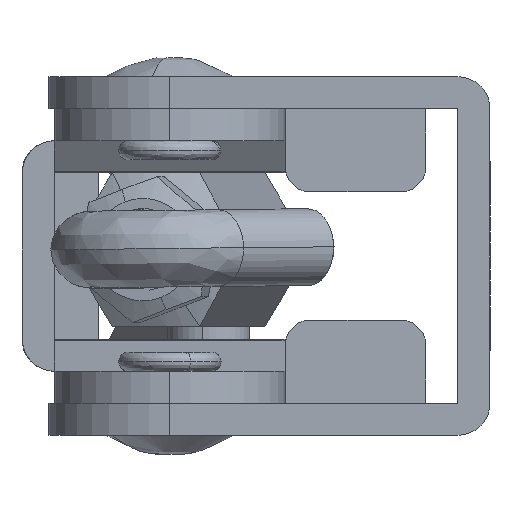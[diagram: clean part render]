
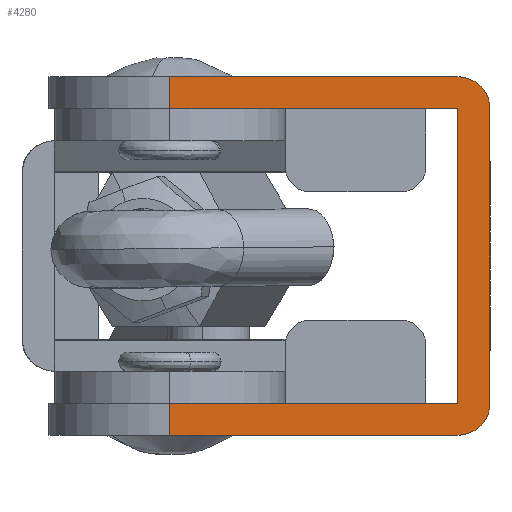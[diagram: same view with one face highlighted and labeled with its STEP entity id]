
A CAD part, left-side view. The second image highlights one B-rep face of the part: STEP entity #4280.
In plain terms, the highlighted planar face has unit normal (-1, 0, 0).
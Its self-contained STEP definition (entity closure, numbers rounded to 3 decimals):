
#103 = AXIS2_PLACEMENT_3D ( 'NONE', #5122, #7528, #8827 ) ;
#238 = EDGE_CURVE ( 'NONE', #12962, #13263, #10459, .T. ) ;
#268 = VECTOR ( 'NONE', #14915, 1000. ) ;
#469 = VERTEX_POINT ( 'NONE', #1870 ) ;
#591 = CARTESIAN_POINT ( 'NONE',  ( -35., 0., 25.5 ) ) ;
#776 = CIRCLE ( 'NONE', #13064, 2.5 ) ;
#1102 = VECTOR ( 'NONE', #5193, 1000. ) ;
#1420 = DIRECTION ( 'NONE',  ( 0., -1., 0. ) ) ;
#1870 = CARTESIAN_POINT ( 'NONE',  ( -35., 25., 0. ) ) ;
#2093 = EDGE_CURVE ( 'NONE', #4852, #4491, #2851, .T. ) ;
#2188 = CARTESIAN_POINT ( 'NONE',  ( -35., 2.5, 2.5 ) ) ;
#2398 = AXIS2_PLACEMENT_3D ( 'NONE', #4671, #7119, #15247 ) ;
#2444 = VERTEX_POINT ( 'NONE', #7448 ) ;
#2480 = CARTESIAN_POINT ( 'NONE',  ( -35., 25., 28. ) ) ;
#2736 = CARTESIAN_POINT ( 'NONE',  ( -35., 0., 28. ) ) ;
#2851 = LINE ( 'NONE', #5502, #268 ) ;
#2881 = ORIENTED_EDGE ( 'NONE', *, *, #9463, .F. ) ;
#3145 = EDGE_CURVE ( 'NONE', #469, #13657, #10391, .T. ) ;
#3675 = PLANE ( 'NONE',  #2398 ) ;
#3747 = DIRECTION ( 'NONE',  ( 0., -1., 0. ) ) ;
#3971 = EDGE_LOOP ( 'NONE', ( #11953, #10668, #6918, #5768, #10368, #9426, #14933, #12174, #13305, #2881 ) ) ;
#4063 = LINE ( 'NONE', #2188, #15101 ) ;
#4280 = ADVANCED_FACE ( 'NONE', ( #11096 ), #3675, .F. ) ;
#4491 = VERTEX_POINT ( 'NONE', #5116 ) ;
#4671 = CARTESIAN_POINT ( 'NONE',  ( -35., 0., 28. ) ) ;
#4852 = VERTEX_POINT ( 'NONE', #8244 ) ;
#5031 = VECTOR ( 'NONE', #3747, 1000. ) ;
#5116 = CARTESIAN_POINT ( 'NONE',  ( -35., 2.5, 25.5 ) ) ;
#5122 = CARTESIAN_POINT ( 'NONE',  ( -35., 2.5, 25.5 ) ) ;
#5173 = VECTOR ( 'NONE', #1420, 1000. ) ;
#5193 = DIRECTION ( 'NONE',  ( 0., 0., -1. ) ) ;
#5314 = LINE ( 'NONE', #13610, #9168 ) ;
#5502 = CARTESIAN_POINT ( 'NONE',  ( -35., 42.278, 25.5 ) ) ;
#5768 = ORIENTED_EDGE ( 'NONE', *, *, #11914, .F. ) ;
#5896 = CARTESIAN_POINT ( 'NONE',  ( -35., 18.36, 0. ) ) ;
#6904 = CARTESIAN_POINT ( 'NONE',  ( -35., 2.5, 28. ) ) ;
#6918 = ORIENTED_EDGE ( 'NONE', *, *, #8654, .F. ) ;
#6986 = DIRECTION ( 'NONE',  ( 1., 0., 0. ) ) ;
#7119 = DIRECTION ( 'NONE',  ( 1., 0., 0. ) ) ;
#7448 = CARTESIAN_POINT ( 'NONE',  ( -35., 2.5, 0. ) ) ;
#7528 = DIRECTION ( 'NONE',  ( 1., 0., 0. ) ) ;
#7586 = LINE ( 'NONE', #2736, #5031 ) ;
#7862 = CARTESIAN_POINT ( 'NONE',  ( -35., 2.5, 2.5 ) ) ;
#8023 = DIRECTION ( 'NONE',  ( 0., -1., 0. ) ) ;
#8102 = EDGE_CURVE ( 'NONE', #4852, #9358, #5314, .T. ) ;
#8238 = LINE ( 'NONE', #5896, #13929 ) ;
#8244 = CARTESIAN_POINT ( 'NONE',  ( -35., 25., 25.5 ) ) ;
#8504 = DIRECTION ( 'NONE',  ( 0., 0., 1. ) ) ;
#8554 = CARTESIAN_POINT ( 'NONE',  ( -35., 25., 28. ) ) ;
#8636 = CARTESIAN_POINT ( 'NONE',  ( -35., 0., 28. ) ) ;
#8654 = EDGE_CURVE ( 'NONE', #12813, #12962, #9888, .T. ) ;
#8827 = DIRECTION ( 'NONE',  ( 0., 1., 0. ) ) ;
#9168 = VECTOR ( 'NONE', #14630, 1000. ) ;
#9358 = VERTEX_POINT ( 'NONE', #2480 ) ;
#9426 = ORIENTED_EDGE ( 'NONE', *, *, #2093, .T. ) ;
#9463 = EDGE_CURVE ( 'NONE', #2444, #469, #8238, .T. ) ;
#9888 = CIRCLE ( 'NONE', #103, 2.5 ) ;
#10368 = ORIENTED_EDGE ( 'NONE', *, *, #8102, .F. ) ;
#10391 = LINE ( 'NONE', #8554, #10917 ) ;
#10459 = LINE ( 'NONE', #8636, #1102 ) ;
#10479 = EDGE_CURVE ( 'NONE', #13263, #2444, #776, .T. ) ;
#10668 = ORIENTED_EDGE ( 'NONE', *, *, #238, .F. ) ;
#10917 = VECTOR ( 'NONE', #8504, 1000. ) ;
#11096 = FACE_OUTER_BOUND ( 'NONE', #3971, .T. ) ;
#11801 = LINE ( 'NONE', #13123, #5173 ) ;
#11914 = EDGE_CURVE ( 'NONE', #9358, #12813, #7586, .T. ) ;
#11953 = ORIENTED_EDGE ( 'NONE', *, *, #10479, .F. ) ;
#12174 = ORIENTED_EDGE ( 'NONE', *, *, #14479, .F. ) ;
#12479 = CARTESIAN_POINT ( 'NONE',  ( -35., 25., 2.5 ) ) ;
#12810 = DIRECTION ( 'NONE',  ( 0., 0., -1. ) ) ;
#12813 = VERTEX_POINT ( 'NONE', #6904 ) ;
#12911 = CARTESIAN_POINT ( 'NONE',  ( -35., 0., 2.5 ) ) ;
#12962 = VERTEX_POINT ( 'NONE', #591 ) ;
#13064 = AXIS2_PLACEMENT_3D ( 'NONE', #13877, #6986, #8023 ) ;
#13123 = CARTESIAN_POINT ( 'NONE',  ( -35., 0., 2.5 ) ) ;
#13263 = VERTEX_POINT ( 'NONE', #12911 ) ;
#13289 = EDGE_CURVE ( 'NONE', #4491, #14875, #4063, .T. ) ;
#13305 = ORIENTED_EDGE ( 'NONE', *, *, #3145, .F. ) ;
#13610 = CARTESIAN_POINT ( 'NONE',  ( -35., 25., 28. ) ) ;
#13657 = VERTEX_POINT ( 'NONE', #12479 ) ;
#13877 = CARTESIAN_POINT ( 'NONE',  ( -35., 2.5, 2.5 ) ) ;
#13929 = VECTOR ( 'NONE', #14112, 1000. ) ;
#14112 = DIRECTION ( 'NONE',  ( 0., 1., 0. ) ) ;
#14479 = EDGE_CURVE ( 'NONE', #13657, #14875, #11801, .T. ) ;
#14630 = DIRECTION ( 'NONE',  ( 0., 0., 1. ) ) ;
#14875 = VERTEX_POINT ( 'NONE', #7862 ) ;
#14915 = DIRECTION ( 'NONE',  ( 0., -1., 0. ) ) ;
#14933 = ORIENTED_EDGE ( 'NONE', *, *, #13289, .T. ) ;
#15101 = VECTOR ( 'NONE', #12810, 1000. ) ;
#15247 = DIRECTION ( 'NONE',  ( 0., 0., -1. ) ) ;
